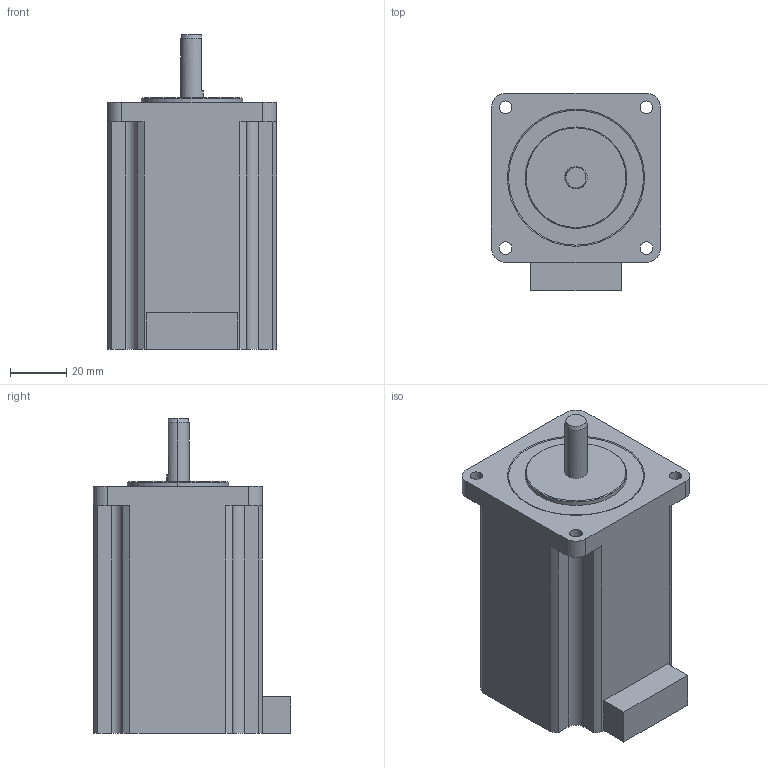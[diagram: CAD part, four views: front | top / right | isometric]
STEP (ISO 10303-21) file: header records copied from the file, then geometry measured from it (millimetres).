
FILE_DESCRIPTION (( 'STEP AP203' ), '1' );
FILE_NAME ('PMSA-U60D5_3D.STEP', '2017-01-31T07:46:33', ( 'SKJ01072' ), ( '' ), 'SwSTEP 2.0', 'SolidWorks 2014', '' );
FILE_SCHEMA (( 'CONFIG_CONTROL_DESIGN' ));
Length unit declared in the file: millimetre
Products named in the file (1): PMSA-U60D5_3D
Bounding box: 60 x 70 x 111.8 mm (x, y, z)
Volume: 286463 mm3; surface area: 28812.6 mm2
Topology: 1 solids, 1 shells, 64 faces, 174 edges, 115 vertices
Faces by surface type: plane 29, cylinder 28, cone 7
Entity records: 2152 total; most frequent: CARTESIAN_POINT 378, DIRECTION 369, ORIENTED_EDGE 348, EDGE_CURVE 174, AXIS2_PLACEMENT_3D 134, VERTEX_POINT 115, VECTOR 101, LINE 101
